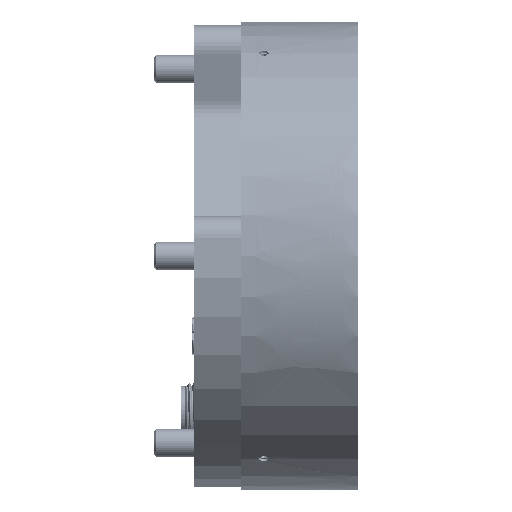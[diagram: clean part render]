
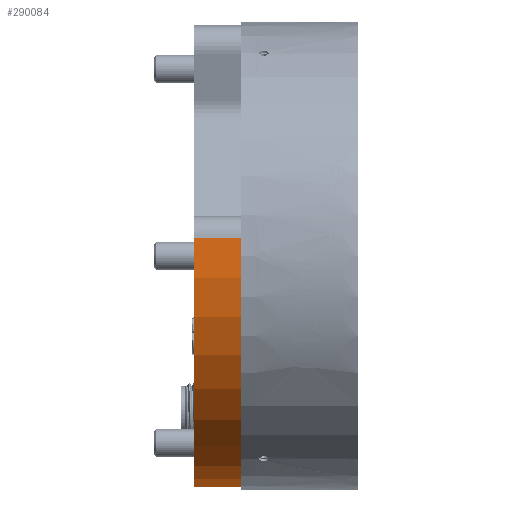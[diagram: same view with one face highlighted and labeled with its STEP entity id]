
A CAD part, front view. The second image highlights one B-rep face of the part: STEP entity #290084.
In plain terms, the highlighted cylindrical face has radius 49.5 mm (diameter 99 mm), a partial arc.
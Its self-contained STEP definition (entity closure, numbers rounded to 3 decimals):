
#2683 = ORIENTED_EDGE ( 'NONE', *, *, #105864, .T. ) ;
#10116 = AXIS2_PLACEMENT_3D ( 'NONE', #72159, #45786, #50954 ) ;
#11109 = ORIENTED_EDGE ( 'NONE', *, *, #43262, .T. ) ;
#23043 = DIRECTION ( 'NONE',  ( 0., -0.707, 0.707 ) ) ;
#43262 = EDGE_CURVE ( 'NONE', #297590, #110871, #130232, .T. ) ;
#45786 = DIRECTION ( 'NONE',  ( -1., 0., 0. ) ) ;
#49572 = CIRCLE ( 'NONE', #341492, 49.5 ) ;
#50954 = DIRECTION ( 'NONE',  ( 0., -0.707, 0.707 ) ) ;
#54526 = CARTESIAN_POINT ( 'NONE',  ( -13., 3.907, -49.346 ) ) ;
#72159 = CARTESIAN_POINT ( 'NONE',  ( -13., 0., 0. ) ) ;
#102482 = CIRCLE ( 'NONE', #315820, 49.5 ) ;
#105864 = EDGE_CURVE ( 'NONE', #110871, #329760, #49572, .T. ) ;
#110871 = VERTEX_POINT ( 'NONE', #186561 ) ;
#121825 = EDGE_CURVE ( 'NONE', #297590, #199873, #102482, .T. ) ;
#130232 = LINE ( 'NONE', #54526, #215370 ) ;
#135415 = DIRECTION ( 'NONE',  ( 1., 0., 0. ) ) ;
#136074 = LINE ( 'NONE', #325881, #180778 ) ;
#156661 = CARTESIAN_POINT ( 'NONE',  ( -13., 0., 0. ) ) ;
#158422 = DIRECTION ( 'NONE',  ( -1., 0., 0. ) ) ;
#164167 = DIRECTION ( 'NONE',  ( -1., 0., 0. ) ) ;
#164865 = DIRECTION ( 'NONE',  ( -1., 0., 0. ) ) ;
#168442 = EDGE_LOOP ( 'NONE', ( #335703, #11109, #2683, #299242 ) ) ;
#180778 = VECTOR ( 'NONE', #164167, 1000. ) ;
#185528 = CARTESIAN_POINT ( 'NONE',  ( -3., -49.346, 3.907 ) ) ;
#186561 = CARTESIAN_POINT ( 'NONE',  ( -3., 3.907, -49.346 ) ) ;
#199873 = VERTEX_POINT ( 'NONE', #270006 ) ;
#215370 = VECTOR ( 'NONE', #135415, 1000. ) ;
#219116 = CARTESIAN_POINT ( 'NONE',  ( -13., 3.907, -49.346 ) ) ;
#267416 = CARTESIAN_POINT ( 'NONE',  ( -3., 0., 0. ) ) ;
#270006 = CARTESIAN_POINT ( 'NONE',  ( -13., -49.346, 3.907 ) ) ;
#290084 = ADVANCED_FACE ( 'NONE', ( #291875 ), #341149, .T. ) ;
#291875 = FACE_OUTER_BOUND ( 'NONE', #168442, .T. ) ;
#295547 = DIRECTION ( 'NONE',  ( 0., -0.707, 0.707 ) ) ;
#297590 = VERTEX_POINT ( 'NONE', #219116 ) ;
#299242 = ORIENTED_EDGE ( 'NONE', *, *, #299360, .T. ) ;
#299360 = EDGE_CURVE ( 'NONE', #329760, #199873, #136074, .T. ) ;
#315820 = AXIS2_PLACEMENT_3D ( 'NONE', #156661, #164865, #23043 ) ;
#325881 = CARTESIAN_POINT ( 'NONE',  ( -13., -49.346, 3.907 ) ) ;
#329760 = VERTEX_POINT ( 'NONE', #185528 ) ;
#335703 = ORIENTED_EDGE ( 'NONE', *, *, #121825, .F. ) ;
#341149 = CYLINDRICAL_SURFACE ( 'NONE', #10116, 49.5 ) ;
#341492 = AXIS2_PLACEMENT_3D ( 'NONE', #267416, #158422, #295547 ) ;
